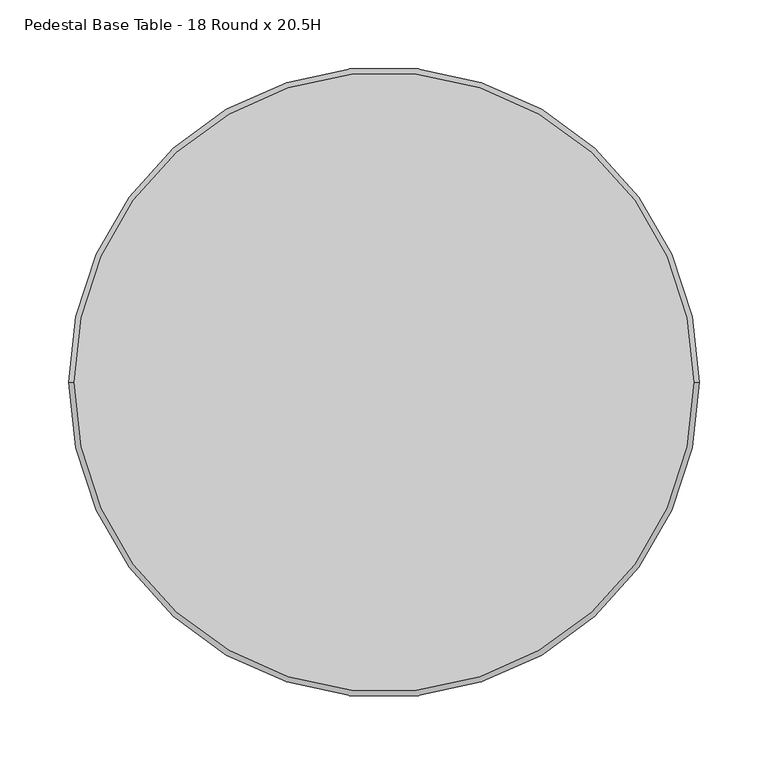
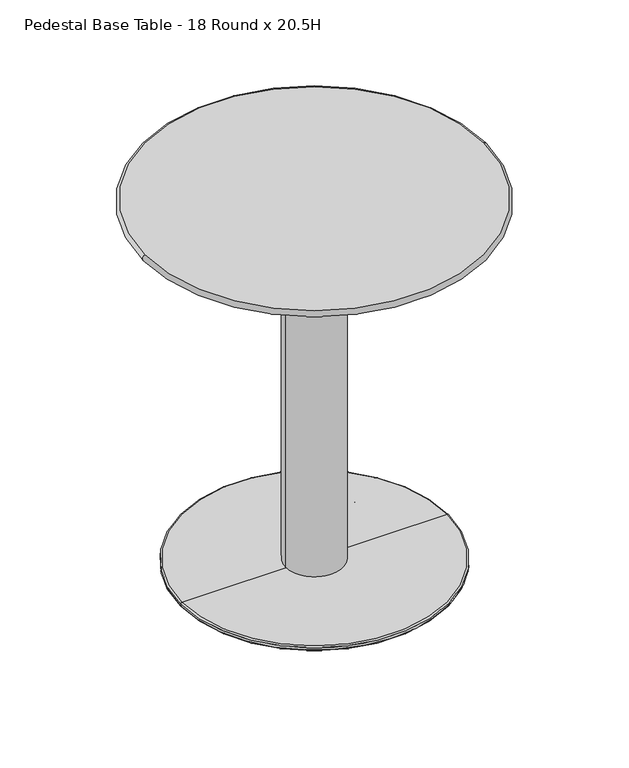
"""IFC4 building model written with IfcOpenShell, lengths in millimetres: furniture geometry, Integra - Coastal Collection - Coastal Metal Tables - Freestanding Table : Pedestal Base Table - 18 Round x 20.5H."""

from ifc_helpers import new_model, si_unit, point, frame, origin, origin_2d, place, context, project, spatial, circle_curve, ellipse_curve, trimmed, segment, composite_curve, outline, extrude, source, transform, mapped, element, save
from ifc_brep_helpers import plane_surface, cylinder_surface, revolved_surface, advanced_brep


def pedestal_base_table_18_round_x_20_5h_81a6ba7d(model_context):
    return source(origin(), model_context, "Body", "SolidModel", [
        advanced_brep(
        [(177.8, 0.0, 14.2991915), (-177.8, 0.0, 14.2991915), (-176.2125, 0.0, 15.8866915), (176.2125, 0.0, 15.8866915), (177.8, 0.0, 11.1241915), (-177.8, 0.0, 11.1241915), (176.2125, 0.0, 9.5366915), (-176.2125, 0.0, 9.5366915), (0.0, 0.0, 9.5366915), (0.0, 0.0, 15.8866915)],
        [
            (0, 1, circle_curve(frame((0.0, 0.0, 14.2991915), z_axis=(0.0, 0.0, 1.0), x_axis=(-1.0, 0.0, 0.0)), 177.8)),
            (1, 2, circle_curve(frame((-176.2125, 0.0, 14.2991915), z_axis=(0.0, 1.0, 0.0), x_axis=(1.0, 0.0, 0.0)), 1.5875)),
            (2, 3, circle_curve(frame((0.0, 0.0, 15.8866915), z_axis=(0.0, 0.0, -1.0), x_axis=(-1.0, 0.0, 0.0)), 176.2125)),
            (3, 0, circle_curve(frame((176.2125, 0.0, 14.2991915), z_axis=(0.0, 1.0, 0.0), x_axis=(-1.0, 0.0, 0.0)), 1.5875)),
            (1, 0, circle_curve(frame((0.0, 0.0, 14.2991915), z_axis=(0.0, 0.0, 1.0), x_axis=(-1.0, 0.0, 0.0)), 177.8)),
            (3, 2, circle_curve(frame((0.0, 0.0, 15.8866915), z_axis=(0.0, 0.0, -1.0), x_axis=(-1.0, 0.0, 0.0)), 176.2125)),
            (4, 5, circle_curve(frame((0.0, 0.0, 11.1241915), z_axis=(0.0, 0.0, 1.0), x_axis=(-1.0, 0.0, 0.0)), 177.8)),
            (5, 1),
            (0, 4),
            (5, 4, circle_curve(frame((0.0, 0.0, 11.1241915), z_axis=(0.0, 0.0, 1.0), x_axis=(-1.0, 0.0, 0.0)), 177.8)),
            (6, 7, circle_curve(frame((0.0, 0.0, 9.5366915), z_axis=(0.0, 0.0, 1.0), x_axis=(-1.0, 0.0, 0.0)), 176.2125)),
            (7, 5, circle_curve(frame((-176.2125, 0.0, 11.1241915), z_axis=(0.0, 1.0, 0.0), x_axis=(1.0, 0.0, 0.0)), 1.5875)),
            (4, 6, circle_curve(frame((176.2125, 0.0, 11.1241915), z_axis=(0.0, 1.0, 0.0), x_axis=(-1.0, 0.0, 0.0)), 1.5875)),
            (7, 6, circle_curve(frame((0.0, 0.0, 9.5366915), z_axis=(0.0, 0.0, 1.0), x_axis=(-1.0, 0.0, 0.0)), 176.2125)),
            (8, 7),
            (6, 8),
            (2, 9),
            (9, 3),
        ],
        [
            revolved_surface(trimmed(ellipse_curve(frame((-176.2125, 0.0, 14.2991915), z_axis=(0.0, -1.0, 0.0), x_axis=(1.0, 0.0, 0.0)), 1.5875, 1.5875), [point((-176.2125, 0.0, 15.8866915))], [point((-177.8, 0.0, 14.2991915))], True, "CARTESIAN"), (0.0, 0.0, 15.8866915), (0.0, 0.0, -1.0)),
            cylinder_surface(frame((0.0, 0.0, 15.8866915), z_axis=(0.0, 0.0, -1.0), x_axis=(-1.0, 0.0, 0.0)), 177.8),
            revolved_surface(trimmed(ellipse_curve(frame((-176.2125, 0.0, 11.1241915), z_axis=(0.0, -1.0, 0.0), x_axis=(1.0, 0.0, 0.0)), 1.5875, 1.5875), [point((-177.8, 0.0, 11.1241915))], [point((-176.2125, 0.0, 9.5366915))], True, "CARTESIAN"), (0.0, 0.0, 15.8866915), (0.0, 0.0, -1.0)),
            plane_surface(frame((0.0, 0.0, 9.5366915), z_axis=(0.0, 0.0, -1.0), x_axis=(-1.0, 0.0, 0.0))),
            plane_surface(frame((0.0, 0.0, 15.8866915), z_axis=(0.0, 0.0, 1.0), x_axis=(-1.0, 0.0, 0.0))),
        ],
        [
            (0, [[1, 2, 3, 4]]),
            (0, [[5, -4, 6, -2]]),
            (1, [[7, 8, -1, 9]]),
            (1, [[10, -9, -5, -8]]),
            (2, [[11, 12, -7, 13]]),
            (2, [[14, -13, -10, -12]]),
            (3, [[15, -11, 16]]),
            (3, [[-16, -14, -15]]),
            (4, [[-3, 17, 18]]),
            (4, [[-6, -18, -17]]),
        ],
    ),
        extrude(outline(composite_curve([segment(trimmed(circle_curve(origin_2d(), 38.1), [point((-38.1, 0.0))], [point((38.1, 0.0))], False, "CARTESIAN"), True, "CONTINUOUS"), segment(trimmed(circle_curve(origin_2d(), 38.1), [point((38.1, 0.0))], [point((-38.1, 0.0))], False, "CARTESIAN"), True, "CONTINUOUS")], self_intersect=False)), frame((0.0, 0.0, 15.8866915), z_axis=(0.0, 0.0, 1.0), x_axis=(1.0, 0.0, 0.0)), (0.0, 0.0, 1.0), 485.7633025),
        advanced_brep(
        [(-203.184015, 0.0, 507.9999939), (203.184015, 0.0, 507.9999939), (224.6380192, 0.0, 520.7), (-224.6380192, 0.0, 520.7), (226.3187402, 0.0, 513.1501969), (-226.3187402, 0.0, 513.1501969)],
        [
            (0, 1, circle_curve(frame((0.0, 0.0, 507.9999939), z_axis=(0.0, 0.0, -1.0), x_axis=(1.0, 0.0, 0.0)), 203.184015)),
            (1, 0, circle_curve(frame((0.0, 0.0, 507.9999939), z_axis=(0.0, 0.0, -1.0), x_axis=(-1.0, 0.0, 0.0)), 203.184015)),
            (2, 3, circle_curve(frame((0.0, 0.0, 520.7), z_axis=(0.0, 0.0, 1.0), x_axis=(1.0, 0.0, 0.0)), 224.6380192)),
            (3, 2, circle_curve(frame((0.0, 0.0, 520.7), z_axis=(0.0, 0.0, 1.0), x_axis=(-1.0, 0.0, 0.0)), 224.6380192)),
            (2, 4, circle_curve(frame((224.6380192, 0.0, 516.7380192), z_axis=(0.0, 1.0, 0.0), x_axis=(-1.0, 0.0, 0.0)), 3.9619808)),
            (4, 5, circle_curve(frame((0.0, 0.0, 513.1501969), z_axis=(0.0, 0.0, 1.0), x_axis=(1.0, 0.0, 0.0)), 226.3187402)),
            (5, 3, circle_curve(frame((-224.6380192, 0.0, 516.7380192), z_axis=(0.0, 1.0, 0.0), x_axis=(1.0, 0.0, 0.0)), 3.9619808)),
            (4, 1, circle_curve(frame((203.184015, 0.0, 562.5357186), z_axis=(0.0, 1.0, 0.0), x_axis=(-1.0, 0.0, 0.0)), 54.5357246)),
            (0, 5, circle_curve(frame((-203.184015, 0.0, 562.5357186), z_axis=(0.0, 1.0, 0.0), x_axis=(1.0, 0.0, 0.0)), 54.5357246)),
            (5, 4, circle_curve(frame((0.0, 0.0, 513.1501969), z_axis=(0.0, 0.0, 1.0), x_axis=(-1.0, 0.0, 0.0)), 226.3187402)),
        ],
        [
            plane_surface(frame((-25.4, 0.0, 507.9999939), z_axis=(0.0, 0.0, -1.0), x_axis=(0.0, 1.0, 0.0))),
            plane_surface(frame((-25.4, 0.0, 520.7), z_axis=(0.0, 0.0, 1.0), x_axis=(0.0, -1.0, 0.0))),
            revolved_surface(trimmed(ellipse_curve(frame((224.6380192, 0.0, 516.7380192), z_axis=(0.0, -1.0, 0.0), x_axis=(-1.0, 0.0, 0.0)), 3.9619808, 3.9619808), [point((226.3187402, 0.0, 513.1501969))], [point((224.6380192, 0.0, 520.7))], True, "CARTESIAN"), (0.0, 0.0, 520.7), (0.0, 0.0, 1.0)),
            revolved_surface(trimmed(ellipse_curve(frame((203.184015, 0.0, 562.5357186), z_axis=(0.0, -1.0, 0.0), x_axis=(-1.0, 0.0, 0.0)), 54.5357246, 54.5357246), [point((203.184015, 0.0, 507.9999939))], [point((226.3187402, 0.0, 513.1501969))], True, "CARTESIAN"), (0.0, 0.0, 520.7), (0.0, 0.0, 1.0)),
            revolved_surface(trimmed(ellipse_curve(frame((-224.6380192, 0.0, 516.7380192), z_axis=(0.0, 1.0, 0.0), x_axis=(1.0, 0.0, 0.0)), 3.9619808, 3.9619808), [point((-226.3187402, 0.0, 513.1501969))], [point((-224.6380192, 0.0, 520.7))], True, "CARTESIAN"), (0.0, 0.0, 520.7), (0.0, 0.0, 1.0)),
            revolved_surface(trimmed(ellipse_curve(frame((-203.184015, 0.0, 562.5357186), z_axis=(0.0, 1.0, 0.0), x_axis=(1.0, 0.0, 0.0)), 54.5357246, 54.5357246), [point((-203.184015, 0.0, 507.9999939))], [point((-226.3187402, 0.0, 513.1501969))], True, "CARTESIAN"), (0.0, 0.0, 520.7), (0.0, 0.0, 1.0)),
        ],
        [
            (0, [[1, 2]]),
            (1, [[3, 4]]),
            (2, [[-3, 5, 6, 7]]),
            (3, [[-6, 8, -1, 9]]),
            (4, [[-5, -4, -7, 10]]),
            (5, [[-8, -10, -9, -2]]),
        ],
    ),
        extrude(outline(composite_curve([segment(trimmed(circle_curve(origin_2d(), 203.2), [point((-203.2, 0.0))], [point((203.2, 0.0))], False, "CARTESIAN"), True, "CONTINUOUS"), segment(trimmed(circle_curve(origin_2d(), 203.2), [point((203.2, 0.0))], [point((-203.2, 0.0))], False, "CARTESIAN"), True, "CONTINUOUS")], self_intersect=False)), frame((0.0, 0.0, 501.6499939), z_axis=(0.0, 0.0, 1.0), x_axis=(1.0, 0.0, 0.0)), (0.0, 0.0, 1.0), 6.35),
        advanced_brep(
        [(-117.2443939, 101.6, 9.5239742), (-85.9556061, 101.6, 9.5239742), (-101.6, 101.6, 9.5239742), (-107.7193939, 101.6, -0.0010258), (-95.4806061, 101.6, -0.0010258), (-101.6, 101.6, -0.0010258)],
        [
            (0, 1, circle_curve(frame((-101.6, 101.6, 9.5239742), z_axis=(0.0, 0.0, 1.0), x_axis=(1.0, 0.0, 0.0)), 15.6443939)),
            (1, 2),
            (2, 0),
            (1, 0, circle_curve(frame((-101.6, 101.6, 9.5239742), z_axis=(0.0, 0.0, 1.0), x_axis=(1.0, 0.0, 0.0)), 15.6443939)),
            (3, 4, circle_curve(frame((-101.6, 101.6, -0.0010258), z_axis=(0.0, 0.0, 1.0), x_axis=(1.0, 0.0, 0.0)), 6.1193939)),
            (4, 1, circle_curve(frame((-95.4806061, 101.6, 9.5239742), z_axis=(0.0, -1.0, 0.0), x_axis=(1.0, 0.0, 0.0)), 9.525)),
            (0, 3, circle_curve(frame((-107.7193939, 101.6, 9.5239742), z_axis=(0.0, -1.0, 0.0), x_axis=(-1.0, 0.0, 0.0)), 9.525)),
            (4, 3, circle_curve(frame((-101.6, 101.6, -0.0010258), z_axis=(0.0, 0.0, 1.0), x_axis=(1.0, 0.0, 0.0)), 6.1193939)),
            (5, 4),
            (3, 5),
        ],
        [
            plane_surface(frame((-101.6, 101.6, 9.5239742), z_axis=(0.0, 0.0, 1.0), x_axis=(1.0, 0.0, 0.0))),
            revolved_surface(trimmed(ellipse_curve(frame((-95.4806061, 101.6, 9.5239742), z_axis=(0.0, 1.0, 0.0), x_axis=(1.0, 0.0, 0.0)), 9.525, 9.525), [point((-85.9556061, 101.6, 9.5239742))], [point((-95.4806061, 101.6, -0.0010258))], True, "CARTESIAN"), (-101.6, 101.6, -0.0010258), (0.0, 0.0, -1.0)),
            plane_surface(frame((-101.6, 101.6, -0.0010258), z_axis=(0.0, 0.0, -1.0), x_axis=(1.0, 0.0, 0.0))),
        ],
        [
            (0, [[1, 2, 3]]),
            (0, [[4, -3, -2]]),
            (1, [[5, 6, -1, 7]]),
            (1, [[8, -7, -4, -6]]),
            (2, [[9, -5, 10]]),
            (2, [[-10, -8, -9]]),
        ],
    ),
        advanced_brep(
        [(-101.6, -101.6, 9.5239742), (-85.9556061, -101.6, 9.5239742), (-117.2443939, -101.6, 9.5239742), (-95.4806061, -101.6, -0.0010258), (-107.7193939, -101.6, -0.0010258), (-101.6, -101.6, -0.0010258)],
        [
            (0, 1),
            (1, 2, circle_curve(frame((-101.6, -101.6, 9.5239742), z_axis=(0.0, 0.0, 1.0), x_axis=(1.0, 0.0, 0.0)), 15.6443939)),
            (2, 0),
            (2, 1, circle_curve(frame((-101.6, -101.6, 9.5239742), z_axis=(0.0, 0.0, 1.0), x_axis=(1.0, 0.0, 0.0)), 15.6443939)),
            (1, 3, circle_curve(frame((-95.4806061, -101.6, 9.5239742), z_axis=(0.0, 1.0, 0.0), x_axis=(1.0, 0.0, 0.0)), 9.525)),
            (3, 4, circle_curve(frame((-101.6, -101.6, -0.0010258), z_axis=(0.0, 0.0, 1.0), x_axis=(1.0, 0.0, 0.0)), 6.1193939)),
            (4, 2, circle_curve(frame((-107.7193939, -101.6, 9.5239742), z_axis=(0.0, 1.0, 0.0), x_axis=(-1.0, 0.0, 0.0)), 9.525)),
            (4, 3, circle_curve(frame((-101.6, -101.6, -0.0010258), z_axis=(0.0, 0.0, 1.0), x_axis=(1.0, 0.0, 0.0)), 6.1193939)),
            (3, 5),
            (5, 4),
        ],
        [
            plane_surface(frame((-101.6, -101.6, 9.5239742), z_axis=(0.0, 0.0, 1.0), x_axis=(1.0, 0.0, 0.0))),
            revolved_surface(trimmed(ellipse_curve(frame((-95.4806061, -101.6, 9.5239742), z_axis=(0.0, -1.0, 0.0), x_axis=(1.0, 0.0, 0.0)), 9.525, 9.525), [point((-95.4806061, -101.6, -0.0010258))], [point((-85.9556061, -101.6, 9.5239742))], True, "CARTESIAN"), (-101.6, -101.6, -0.0010258), (0.0, 0.0, 1.0)),
            plane_surface(frame((-101.6, -101.6, -0.0010258), z_axis=(0.0, 0.0, -1.0), x_axis=(1.0, 0.0, 0.0))),
        ],
        [
            (0, [[1, 2, 3]]),
            (0, [[-3, 4, -1]]),
            (1, [[-2, 5, 6, 7]]),
            (1, [[-4, -7, 8, -5]]),
            (2, [[-6, 9, 10]]),
            (2, [[-8, -10, -9]]),
        ],
    ),
        advanced_brep(
        [(101.6, 101.6, 9.5239742), (85.9556061, 101.6, 9.5239742), (117.2443939, 101.6, 9.5239742), (95.4806061, 101.6, -0.0010258), (107.7193939, 101.6, -0.0010258), (101.6, 101.6, -0.0010258)],
        [
            (0, 1),
            (1, 2, circle_curve(frame((101.6, 101.6, 9.5239742), z_axis=(0.0, 0.0, 1.0), x_axis=(-1.0, 0.0, 0.0)), 15.6443939)),
            (2, 0),
            (2, 1, circle_curve(frame((101.6, 101.6, 9.5239742), z_axis=(0.0, 0.0, 1.0), x_axis=(-1.0, 0.0, 0.0)), 15.6443939)),
            (1, 3, circle_curve(frame((95.4806061, 101.6, 9.5239742), z_axis=(0.0, -1.0, 0.0), x_axis=(-1.0, 0.0, 0.0)), 9.525)),
            (3, 4, circle_curve(frame((101.6, 101.6, -0.0010258), z_axis=(0.0, 0.0, 1.0), x_axis=(-1.0, 0.0, 0.0)), 6.1193939)),
            (4, 2, circle_curve(frame((107.7193939, 101.6, 9.5239742), z_axis=(0.0, -1.0, 0.0), x_axis=(1.0, 0.0, 0.0)), 9.525)),
            (4, 3, circle_curve(frame((101.6, 101.6, -0.0010258), z_axis=(0.0, 0.0, 1.0), x_axis=(-1.0, 0.0, 0.0)), 6.1193939)),
            (3, 5),
            (5, 4),
        ],
        [
            plane_surface(frame((101.6, 101.6, 9.5239742), z_axis=(0.0, 0.0, 1.0), x_axis=(-1.0, 0.0, 0.0))),
            revolved_surface(trimmed(ellipse_curve(frame((95.4806061, 101.6, 9.5239742), z_axis=(0.0, 1.0, 0.0), x_axis=(-1.0, 0.0, 0.0)), 9.525, 9.525), [point((95.4806061, 101.6, -0.0010258))], [point((85.9556061, 101.6, 9.5239742))], True, "CARTESIAN"), (101.6, 101.6, -0.0010258), (0.0, 0.0, 1.0)),
            plane_surface(frame((101.6, 101.6, -0.0010258), z_axis=(0.0, 0.0, -1.0), x_axis=(-1.0, 0.0, 0.0))),
        ],
        [
            (0, [[1, 2, 3]]),
            (0, [[-3, 4, -1]]),
            (1, [[-2, 5, 6, 7]]),
            (1, [[-4, -7, 8, -5]]),
            (2, [[-6, 9, 10]]),
            (2, [[-8, -10, -9]]),
        ],
    ),
        advanced_brep(
        [(117.2443939, -101.6, 9.5239742), (85.9556061, -101.6, 9.5239742), (101.6, -101.6, 9.5239742), (107.7193939, -101.6, -0.0010258), (95.4806061, -101.6, -0.0010258), (101.6, -101.6, -0.0010258)],
        [
            (0, 1, circle_curve(frame((101.6, -101.6, 9.5239742), z_axis=(0.0, 0.0, 1.0), x_axis=(-1.0, 0.0, 0.0)), 15.6443939)),
            (1, 2),
            (2, 0),
            (1, 0, circle_curve(frame((101.6, -101.6, 9.5239742), z_axis=(0.0, 0.0, 1.0), x_axis=(-1.0, 0.0, 0.0)), 15.6443939)),
            (3, 4, circle_curve(frame((101.6, -101.6, -0.0010258), z_axis=(0.0, 0.0, 1.0), x_axis=(-1.0, 0.0, 0.0)), 6.1193939)),
            (4, 1, circle_curve(frame((95.4806061, -101.6, 9.5239742), z_axis=(0.0, 1.0, 0.0), x_axis=(-1.0, 0.0, 0.0)), 9.525)),
            (0, 3, circle_curve(frame((107.7193939, -101.6, 9.5239742), z_axis=(0.0, 1.0, 0.0), x_axis=(1.0, 0.0, 0.0)), 9.525)),
            (4, 3, circle_curve(frame((101.6, -101.6, -0.0010258), z_axis=(0.0, 0.0, 1.0), x_axis=(-1.0, 0.0, 0.0)), 6.1193939)),
            (5, 4),
            (3, 5),
        ],
        [
            plane_surface(frame((101.6, -101.6, 9.5239742), z_axis=(0.0, 0.0, 1.0), x_axis=(-1.0, 0.0, 0.0))),
            revolved_surface(trimmed(ellipse_curve(frame((95.4806061, -101.6, 9.5239742), z_axis=(0.0, -1.0, 0.0), x_axis=(-1.0, 0.0, 0.0)), 9.525, 9.525), [point((85.9556061, -101.6, 9.5239742))], [point((95.4806061, -101.6, -0.0010258))], True, "CARTESIAN"), (101.6, -101.6, -0.0010258), (0.0, 0.0, -1.0)),
            plane_surface(frame((101.6, -101.6, -0.0010258), z_axis=(0.0, 0.0, -1.0), x_axis=(-1.0, 0.0, 0.0))),
        ],
        [
            (0, [[1, 2, 3]]),
            (0, [[4, -3, -2]]),
            (1, [[5, 6, -1, 7]]),
            (1, [[8, -7, -4, -6]]),
            (2, [[9, -5, 10]]),
            (2, [[-10, -8, -9]]),
        ],
    ),
    ])


if __name__ == "__main__":
    model = new_model("IFC4")
    model_context = context("Model", 3, world=origin())
    ifc_project = project(units=[si_unit("LENGTHUNIT", "METRE", prefix="MILLI")], contexts=[model_context])
    site = spatial("IfcSite", under=ifc_project)
    building = spatial("IfcBuilding", under=site)
    placement = place(None, origin())
    pedestal_base_table_18_round_x_20_5h_shape = pedestal_base_table_18_round_x_20_5h_81a6ba7d(model_context)
    element("IfcFurniture", 1, ObjectType="Integra - Coastal Collection - Coastal Metal Tables - Freestanding Table : Pedestal Base Table - 18 Round x 20.5H", at=placement, inside=building, context=model_context, shape_type="MappedRepresentation", body=[
        mapped(pedestal_base_table_18_round_x_20_5h_shape, transform((0.0, 0.0, 0.0), x_axis=(1.0, 0.0, 0.0), y_axis=(0.0, 1.0, 0.0), z_axis=(0.0, 0.0, 1.0))),
    ])
    save(model, "model.ifc")
